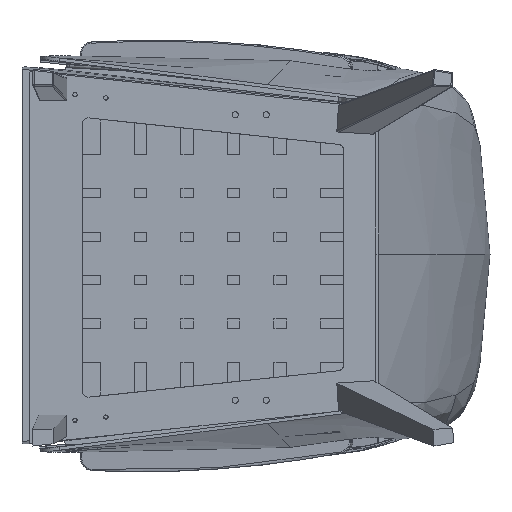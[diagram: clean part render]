
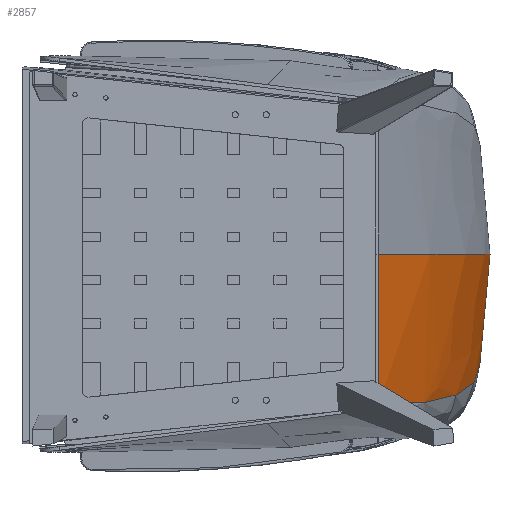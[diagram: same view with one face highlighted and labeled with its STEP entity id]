
A CAD part, front view. The second image highlights one B-rep face of the part: STEP entity #2857.
In plain terms, the highlighted free-form (B-spline) face has degree [3, 3] with [4, 4] control points.
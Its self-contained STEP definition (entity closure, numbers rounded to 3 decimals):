
#853=CARTESIAN_POINT('Vertex',(-378.689,-470.76,-236.202)) ;
#856=CARTESIAN_POINT('Line Origine',(-378.689,-470.76,-115.601)) ;
#860=CARTESIAN_POINT('Vertex',(-378.689,-470.76,5.)) ;
#2759=CARTESIAN_POINT('Vertex',(-231.058,477.137,-120.36)) ;
#2763=CARTESIAN_POINT('Control Point',(-378.689,-470.76,-236.202)) ;
#2764=CARTESIAN_POINT('Control Point',(-236.591,-140.486,-241.607)) ;
#2765=CARTESIAN_POINT('Control Point',(-187.38,175.479,-202.993)) ;
#2766=CARTESIAN_POINT('Control Point',(-231.058,477.137,-120.36)) ;
#2778=CARTESIAN_POINT('Control Point',(-378.689,-470.76,5.)) ;
#2779=CARTESIAN_POINT('Control Point',(-214.225,-140.465,5.)) ;
#2780=CARTESIAN_POINT('Control Point',(-162.856,175.52,5.)) ;
#2781=CARTESIAN_POINT('Control Point',(-224.581,477.194,5.)) ;
#2782=CARTESIAN_POINT('Control Point',(-378.689,-470.76,-75.401)) ;
#2783=CARTESIAN_POINT('Control Point',(-221.678,-140.465,-77.202)) ;
#2784=CARTESIAN_POINT('Control Point',(-171.029,175.52,-64.329)) ;
#2785=CARTESIAN_POINT('Control Point',(-226.743,477.194,-36.781)) ;
#2786=CARTESIAN_POINT('Control Point',(-378.689,-470.76,-231.392)) ;
#2787=CARTESIAN_POINT('Control Point',(-233.168,-140.465,-204.05)) ;
#2788=CARTESIAN_POINT('Control Point',(-183.341,175.52,-155.067)) ;
#2789=CARTESIAN_POINT('Control Point',(-229.209,477.194,-84.445)) ;
#2790=CARTESIAN_POINT('Control Point',(-378.689,-470.76,-236.202)) ;
#2791=CARTESIAN_POINT('Control Point',(-236.582,-140.465,-241.607)) ;
#2792=CARTESIAN_POINT('Control Point',(-187.374,175.52,-202.988)) ;
#2793=CARTESIAN_POINT('Control Point',(-231.066,477.194,-120.344)) ;
#2795=CARTESIAN_POINT('Control Point',(-231.058,477.137,-120.36)) ;
#2796=CARTESIAN_POINT('Control Point',(-230.729,477.136,-114.)) ;
#2797=CARTESIAN_POINT('Control Point',(-230.383,477.136,-107.312)) ;
#2798=CARTESIAN_POINT('Control Point',(-230.021,477.136,-100.329)) ;
#2799=CARTESIAN_POINT('Control Point',(-229.652,477.136,-93.195)) ;
#2800=CARTESIAN_POINT('Control Point',(-229.277,477.136,-85.96)) ;
#2801=CARTESIAN_POINT('Vertex',(-229.277,477.136,-85.96)) ;
#2805=CARTESIAN_POINT('Control Point',(-229.277,477.136,-85.96)) ;
#2806=CARTESIAN_POINT('Control Point',(-228.862,477.136,-77.929)) ;
#2807=CARTESIAN_POINT('Control Point',(-228.433,477.136,-69.65)) ;
#2808=CARTESIAN_POINT('Control Point',(-227.999,477.136,-61.253)) ;
#2809=CARTESIAN_POINT('Vertex',(-227.999,477.136,-61.253)) ;
#2813=CARTESIAN_POINT('Control Point',(-227.999,477.136,-61.253)) ;
#2814=CARTESIAN_POINT('Control Point',(-227.89,477.136,-59.147)) ;
#2815=CARTESIAN_POINT('Control Point',(-227.78,477.136,-57.034)) ;
#2816=CARTESIAN_POINT('Control Point',(-227.67,477.136,-54.915)) ;
#2817=CARTESIAN_POINT('Vertex',(-227.67,477.136,-54.915)) ;
#2821=CARTESIAN_POINT('Control Point',(-227.67,477.136,-54.915)) ;
#2822=CARTESIAN_POINT('Control Point',(-227.177,477.136,-45.373)) ;
#2823=CARTESIAN_POINT('Control Point',(-226.679,477.136,-35.768)) ;
#2824=CARTESIAN_POINT('Control Point',(-226.182,477.136,-26.161)) ;
#2825=CARTESIAN_POINT('Control Point',(-225.561,477.136,-14.166)) ;
#2826=CARTESIAN_POINT('Control Point',(-224.95,477.136,-2.356)) ;
#2827=CARTESIAN_POINT('Control Point',(-224.827,477.136,0.012)) ;
#2828=CARTESIAN_POINT('Control Point',(-224.704,477.136,2.397)) ;
#2829=CARTESIAN_POINT('Control Point',(-224.581,477.136,4.77)) ;
#2830=CARTESIAN_POINT('Vertex',(-224.581,477.136,4.77)) ;
#2834=CARTESIAN_POINT('Control Point',(-224.581,477.136,4.77)) ;
#2835=CARTESIAN_POINT('Control Point',(-224.581,477.156,4.847)) ;
#2836=CARTESIAN_POINT('Control Point',(-224.581,477.175,4.924)) ;
#2837=CARTESIAN_POINT('Control Point',(-224.581,477.194,5.)) ;
#2838=CARTESIAN_POINT('Vertex',(-224.581,477.194,5.)) ;
#2842=CARTESIAN_POINT('Control Point',(-378.689,-470.76,5.)) ;
#2843=CARTESIAN_POINT('Control Point',(-214.225,-140.465,5.)) ;
#2844=CARTESIAN_POINT('Control Point',(-162.856,175.52,5.)) ;
#2845=CARTESIAN_POINT('Control Point',(-224.581,477.194,5.)) ;
#857=DIRECTION('Vector Direction',(0.,0.,-1.)) ;
#858=VECTOR('Line Direction',#857,1.) ;
#2848=ORIENTED_EDGE('',*,*,#2803,.T.) ;
#2849=ORIENTED_EDGE('',*,*,#2811,.T.) ;
#2850=ORIENTED_EDGE('',*,*,#2819,.T.) ;
#2851=ORIENTED_EDGE('',*,*,#2832,.T.) ;
#2852=ORIENTED_EDGE('',*,*,#2840,.T.) ;
#2853=ORIENTED_EDGE('',*,*,#2846,.F.) ;
#2854=ORIENTED_EDGE('',*,*,#862,.T.) ;
#2855=ORIENTED_EDGE('',*,*,#2767,.T.) ;
#2857=ADVANCED_FACE('WING-S3-006_1\\Volumenk\X2\00F6\X0\rper4',(#2856),#2777,.T.) ;
#2762=B_SPLINE_CURVE_WITH_KNOTS('',3,(#2763,#2764,#2765,#2766),.UNSPECIFIED.,.F.,.U.,(4,4),(0.,988.043),.UNSPECIFIED.) ;
#2794=B_SPLINE_CURVE_WITH_KNOTS('',5,(#2795,#2796,#2797,#2798,#2799,#2800),.UNSPECIFIED.,.F.,.U.,(6,6),(0.,68.29),.UNSPECIFIED.) ;
#2804=B_SPLINE_CURVE_WITH_KNOTS('',3,(#2805,#2806,#2807,#2808),.UNSPECIFIED.,.F.,.U.,(4,4),(-20.018,20.018),.UNSPECIFIED.) ;
#2812=B_SPLINE_CURVE_WITH_KNOTS('',3,(#2813,#2814,#2815,#2816),.UNSPECIFIED.,.F.,.U.,(4,4),(-5.021,5.021),.UNSPECIFIED.) ;
#2820=B_SPLINE_CURVE_WITH_KNOTS('',5,(#2821,#2822,#2823,#2824,#2825,#2826,#2827,#2828,#2829),.UNSPECIFIED.,.F.,.U.,(6,3,6),(0.,90.976,114.219),.UNSPECIFIED.) ;
#2833=B_SPLINE_CURVE_WITH_KNOTS('',3,(#2834,#2835,#2836,#2837),.UNSPECIFIED.,.F.,.U.,(4,4),(0.,0.45),.UNSPECIFIED.) ;
#2841=B_SPLINE_CURVE_WITH_KNOTS('',3,(#2842,#2843,#2844,#2845),.UNSPECIFIED.,.F.,.U.,(4,4),(0.,996.846),.UNSPECIFIED.) ;
#2777=B_SPLINE_SURFACE_WITH_KNOTS('',3,3,((#2778,#2779,#2780,#2781),(#2782,#2783,#2784,#2785),(#2786,#2787,#2788,#2789),(#2790,#2791,#2792,#2793)),.UNSPECIFIED.,.F.,.F.,.U.,(4,4),(4,4),(0.,205.951),(0.,996.846),.UNSPECIFIED.) ;
#862=EDGE_CURVE('',#861,#854,#859,.T.) ;
#2767=EDGE_CURVE('',#854,#2760,#2762,.T.) ;
#2803=EDGE_CURVE('',#2760,#2802,#2794,.T.) ;
#2811=EDGE_CURVE('',#2802,#2810,#2804,.T.) ;
#2819=EDGE_CURVE('',#2810,#2818,#2812,.T.) ;
#2832=EDGE_CURVE('',#2818,#2831,#2820,.T.) ;
#2840=EDGE_CURVE('',#2831,#2839,#2833,.T.) ;
#2846=EDGE_CURVE('',#861,#2839,#2841,.T.) ;
#2847=EDGE_LOOP('',(#2848,#2849,#2850,#2851,#2852,#2853,#2854,#2855)) ;
#2856=FACE_OUTER_BOUND('',#2847,.T.) ;
#859=LINE('Line',#856,#858) ;
#854=VERTEX_POINT('',#853) ;
#861=VERTEX_POINT('',#860) ;
#2760=VERTEX_POINT('',#2759) ;
#2802=VERTEX_POINT('',#2801) ;
#2810=VERTEX_POINT('',#2809) ;
#2818=VERTEX_POINT('',#2817) ;
#2831=VERTEX_POINT('',#2830) ;
#2839=VERTEX_POINT('',#2838) ;
